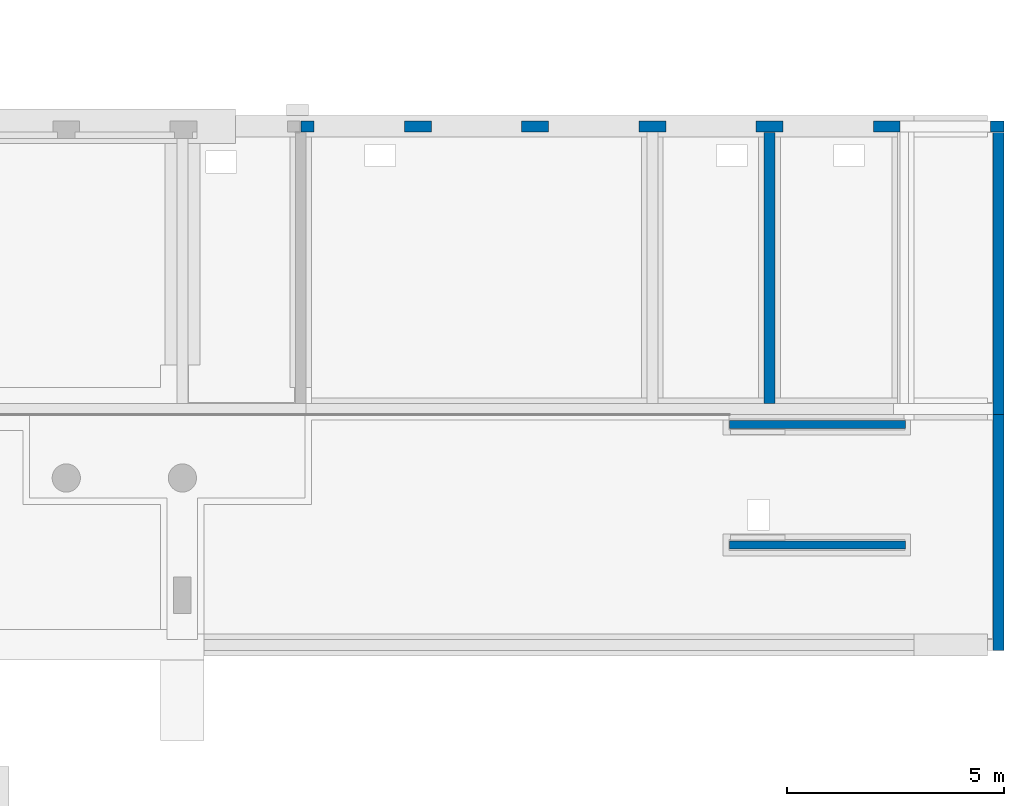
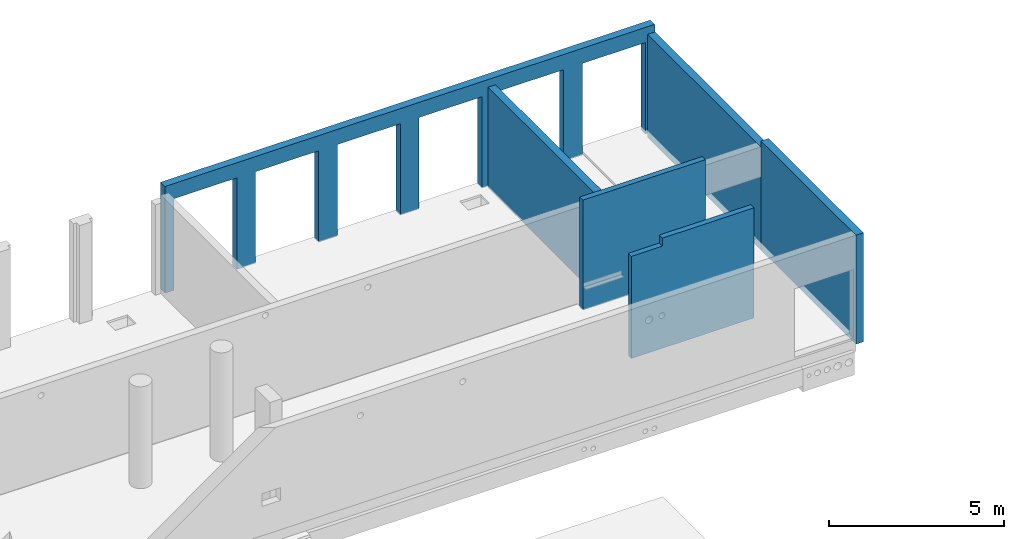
# One storey, part 49 of 60: 6 walls, 13 openings.
"""IFC2X3 building model written with IfcOpenShell, lengths in millimetres."""

from ifc_helpers import new_model, entity, si_unit, converted_unit, derived_unit, direction, frame, frame_2d, origin, place, context, subcontext, project, spatial, rectangle, extrude, material, layer, layer_set, layer_usage, type_object, element, save


model = new_model("IFC2X3")

# Units and contexts
model_context = context("Model", 3, precision=0.01, world=origin(), true_north=direction((6.12303176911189e-17, 1.0)))
body_context = subcontext(model_context, "Body", "Model", "MODEL_VIEW")
ifc_project = project(units=[si_unit("LENGTHUNIT", "METRE", prefix="MILLI"), si_unit("AREAUNIT", "SQUARE_METRE"), si_unit("VOLUMEUNIT", "CUBIC_METRE"), converted_unit("PLANEANGLEUNIT", "DEGREE", entity("IfcRatioMeasure", 0.0174532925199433), si_unit("PLANEANGLEUNIT", "RADIAN"), dimensions=[0, 0, 0, 0, 0, 0, 0]), si_unit("MASSUNIT", "GRAM", prefix="KILO"), derived_unit("MASSDENSITYUNIT", [(si_unit("MASSUNIT", "GRAM", prefix="KILO"), 1), (si_unit("LENGTHUNIT", "METRE"), -3)]), si_unit("TIMEUNIT", "SECOND"), si_unit("FREQUENCYUNIT", "HERTZ"), si_unit("THERMODYNAMICTEMPERATUREUNIT", "DEGREE_CELSIUS"), derived_unit("THERMALTRANSMITTANCEUNIT", [(si_unit("MASSUNIT", "GRAM", prefix="KILO"), 1), (si_unit("THERMODYNAMICTEMPERATUREUNIT", "KELVIN"), -1), (si_unit("TIMEUNIT", "SECOND"), -3)]), derived_unit("VOLUMETRICFLOWRATEUNIT", [(si_unit("LENGTHUNIT", "METRE"), 3), (si_unit("TIMEUNIT", "SECOND"), -1)]), si_unit("ELECTRICCURRENTUNIT", "AMPERE"), si_unit("ELECTRICVOLTAGEUNIT", "VOLT"), si_unit("POWERUNIT", "WATT"), si_unit("FORCEUNIT", "NEWTON", prefix="KILO"), si_unit("ILLUMINANCEUNIT", "LUX"), si_unit("LUMINOUSFLUXUNIT", "LUMEN"), si_unit("LUMINOUSINTENSITYUNIT", "CANDELA"), derived_unit("USERDEFINED", [(si_unit("MASSUNIT", "GRAM", prefix="KILO"), -1), (si_unit("LENGTHUNIT", "METRE"), -2), (si_unit("TIMEUNIT", "SECOND"), 3), (si_unit("LUMINOUSFLUXUNIT", "LUMEN"), 1)]), derived_unit("LINEARVELOCITYUNIT", [(si_unit("LENGTHUNIT", "METRE"), 1), (si_unit("TIMEUNIT", "SECOND"), -1)]), si_unit("PRESSUREUNIT", "PASCAL"), derived_unit("USERDEFINED", [(si_unit("LENGTHUNIT", "METRE"), -2), (si_unit("MASSUNIT", "GRAM", prefix="KILO"), 1), (si_unit("TIMEUNIT", "SECOND"), -2)])], contexts=[model_context])

# Site, building, storey
site_placement = place(None, origin())
site = spatial("IfcSite", under=ifc_project, at=site_placement, Name="Default", CompositionType="ELEMENT")
building_placement = place(site_placement, origin())
building = spatial("IfcBuilding", under=site, at=building_placement, Name="niet gebruiken", CompositionType="ELEMENT")
storey_placement = place(building_placement, origin())
storey = spatial("IfcBuildingStorey", under=building, at=storey_placement, Name="00 begane grond", CompositionType="ELEMENT", Elevation=0.0)

# Wall
ifc_material_1 = material(Name="NLRS_f2_beton ihwg")
ifc_layer_1 = layer(ifc_material_1, 250.0)
ifc_layer_set_1 = layer_set([ifc_layer_1], Name="Basic Wall:NLRS_22.21_WA_beton ihwg d=250_gen")
ifc_layer_usage_1 = layer_usage(ifc_layer_set_1, "AXIS2", "NEGATIVE", 125.0)
wall_type_1 = type_object("IfcWallType", Name="Basic Wall:NLRS_22.21_WA_beton ihwg d=250_gen", PredefinedType="STANDARD", material=ifc_layer_set_1)
wall_1_placement = place(storey_placement, frame((118800.0, 52986.0, -160.0), z_axis=(0.0, 0.0, 1.0), x_axis=(0.0, -1.0, 0.0)))
element("IfcWallStandardCase", 1, at=wall_1_placement, inside=storey, type_object=wall_type_1, material=ifc_layer_usage_1, Name="Basic Wall:NLRS_22.21_WA_beton ihwg d=250_gen", ObjectType="Basic Wall:NLRS_22.21_WA_beton ihwg d=250_gen", context=body_context, shape_type="SweptSolid", body=[
    extrude(rectangle(XDim=6239.99999999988, YDim=250.000000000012, at=frame_2d((3119.99999999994, -3.80850906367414e-12), x_axis=(-1.0, 0.0))), origin(), (0.0, 0.0, 1.0), 3509.99999999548),
])

# Wall, openings
ifc_material_2 = material(Name="NLRS_f2_beton prefab")
ifc_layer_2 = layer(ifc_material_2, 250.0)
ifc_layer_set_2 = layer_set([ifc_layer_2], Name="Basic Wall:NLRS_21.21_WA_beton prefab d=250_gen")
ifc_layer_usage_2 = layer_usage(ifc_layer_set_2, "AXIS2", "NEGATIVE", 125.0)
wall_type_2 = type_object("IfcWallType", Name="Basic Wall:NLRS_21.21_WA_beton prefab d=250_gen", PredefinedType="STANDARD", material=ifc_layer_set_2)
wall_2_placement = place(storey_placement, frame((108010.0, 53131.0, -130.0)))
wall_2 = element("IfcWallStandardCase", 2, at=wall_2_placement, inside=storey, type_object=wall_type_2, material=ifc_layer_usage_2, Name="Basic Wall:NLRS_21.21_WA_beton prefab d=250_gen", ObjectType="Basic Wall:NLRS_21.21_WA_beton prefab d=250_gen", context=body_context, shape_type="SweptSolid", body=[
    extrude(rectangle(XDim=16190.0, YDim=249.999999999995, at=frame_2d((8095.0, -3.73034936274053e-12), x_axis=(-1.0, 0.0))), origin(), (0.0, 0.0, 1.0), 3730.00000000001),
])
opening_1_placement = place(wall_2_placement, origin())
element("IfcOpeningElement", 3, at=opening_1_placement, cuts=wall_2, Name="Basic Wall:NLRS_21.21_WA_beton prefab d=250_gen", ObjectType="Opening", context=body_context, shape_type="SweptSolid", body=[
    extrude(rectangle(XDim=3230.0, YDim=2080.0, at=frame_2d((0.0, 8.64019966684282e-12), x_axis=(1.0, 0.0))), frame((14840.0, -1649.0, 1585.0), z_axis=(0.0, 1.0, 0.0), x_axis=(0.0, 0.0, 1.0)), (0.0, 0.0, 1.0), 3048.0),
])
opening_2_placement = place(wall_2_placement, origin())
element("IfcOpeningElement", 4, at=opening_2_placement, cuts=wall_2, Name="Basic Wall:NLRS_21.21_WA_beton prefab d=250_gen", ObjectType="Opening", context=body_context, shape_type="SweptSolid", body=[
    extrude(rectangle(XDim=3230.0, YDim=2080.0, at=frame_2d((0.0, 8.64019966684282e-12), x_axis=(1.0, 0.0))), frame((12140.0, -1649.0, 1585.0), z_axis=(0.0, 1.0, 0.0), x_axis=(0.0, 0.0, 1.0)), (0.0, 0.0, 1.0), 3048.0),
])
opening_3_placement = place(wall_2_placement, origin())
element("IfcOpeningElement", 5, at=opening_3_placement, cuts=wall_2, Name="Basic Wall:NLRS_21.21_WA_beton prefab d=250_gen", ObjectType="Opening", context=body_context, shape_type="SweptSolid", body=[
    extrude(rectangle(XDim=3230.0, YDim=2080.0, at=frame_2d((0.0, -8.64019966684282e-12), x_axis=(1.0, 0.0))), frame((9440.0, -1649.0, 1585.0), z_axis=(0.0, 1.0, 0.0), x_axis=(0.0, 0.0, 1.0)), (0.0, 0.0, 1.0), 3048.0),
])
opening_4_placement = place(wall_2_placement, origin())
element("IfcOpeningElement", 6, at=opening_4_placement, cuts=wall_2, Name="Basic Wall:NLRS_21.21_WA_beton prefab d=250_gen", ObjectType="Opening", context=body_context, shape_type="SweptSolid", body=[
    extrude(rectangle(XDim=3230.0, YDim=2080.0, at=frame_2d((0.0, 8.64019966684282e-12), x_axis=(1.0, 0.0))), frame((6740.0, -1649.0, 1585.0), z_axis=(0.0, 1.0, 0.0), x_axis=(0.0, 0.0, 1.0)), (0.0, 0.0, 1.0), 3048.0),
])
opening_5_placement = place(wall_2_placement, origin())
element("IfcOpeningElement", 7, at=opening_5_placement, cuts=wall_2, Name="Basic Wall:NLRS_21.21_WA_beton prefab d=250_gen", ObjectType="Opening", context=body_context, shape_type="SweptSolid", body=[
    extrude(rectangle(XDim=3230.0, YDim=2080.0, at=frame_2d((0.0, 8.64019966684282e-12), x_axis=(1.0, 0.0))), frame((4040.0, -1649.0, 1585.0), z_axis=(0.0, 1.0, 0.0), x_axis=(0.0, 0.0, 1.0)), (0.0, 0.0, 1.0), 3048.0),
])
opening_6_placement = place(wall_2_placement, origin())
element("IfcOpeningElement", 8, at=opening_6_placement, cuts=wall_2, Name="Basic Wall:NLRS_21.21_WA_beton prefab d=250_gen", ObjectType="Opening", context=body_context, shape_type="SweptSolid", body=[
    extrude(rectangle(XDim=3230.0, YDim=2080.0, at=frame_2d((0.0, 8.64019966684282e-12), x_axis=(1.0, 0.0))), frame((1340.0, -1649.0, 1585.0), z_axis=(0.0, 1.0, 0.0), x_axis=(0.0, 0.0, 1.0)), (0.0, 0.0, 1.0), 3048.0),
])
opening_7_placement = place(wall_2_placement, origin())
element("IfcOpeningElement", 9, at=opening_7_placement, cuts=wall_2, Name="Basic Wall:NLRS_21.21_WA_beton prefab d=250_gen", ObjectType="Opening", context=body_context, shape_type="SweptSolid", body=[
    extrude(rectangle(XDim=2440.0, YDim=2080.0, at=frame_2d((0.0, 8.64019966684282e-12), x_axis=(1.0, 0.0))), frame((12140.0, -1649.0, 4950.0), z_axis=(0.0, 1.0, 0.0), x_axis=(0.0, 0.0, 1.0)), (0.0, 0.0, 1.0), 3048.0),
])
opening_8_placement = place(wall_2_placement, origin())
element("IfcOpeningElement", 10, at=opening_8_placement, cuts=wall_2, Name="Basic Wall:NLRS_21.21_WA_beton prefab d=250_gen", ObjectType="Opening", context=body_context, shape_type="SweptSolid", body=[
    extrude(rectangle(XDim=2440.0, YDim=2080.0, at=frame_2d((0.0, 8.64019966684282e-12), x_axis=(1.0, 0.0))), frame((14840.0, -1649.0, 4950.0), z_axis=(0.0, 1.0, 0.0), x_axis=(0.0, 0.0, 1.0)), (0.0, 0.0, 1.0), 3048.0),
])
opening_9_placement = place(wall_2_placement, origin())
element("IfcOpeningElement", 11, at=opening_9_placement, cuts=wall_2, Name="Basic Wall:NLRS_21.21_WA_beton prefab d=250_gen", ObjectType="Opening", context=body_context, shape_type="SweptSolid", body=[
    extrude(rectangle(XDim=2440.0, YDim=2080.0, at=frame_2d((0.0, -8.64019966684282e-12), x_axis=(1.0, 0.0))), frame((9440.0, -1649.0, 4950.0), z_axis=(0.0, 1.0, 0.0), x_axis=(0.0, 0.0, 1.0)), (0.0, 0.0, 1.0), 3048.0),
])
opening_10_placement = place(wall_2_placement, origin())
element("IfcOpeningElement", 12, at=opening_10_placement, cuts=wall_2, Name="Basic Wall:NLRS_21.21_WA_beton prefab d=250_gen", ObjectType="Opening", context=body_context, shape_type="SweptSolid", body=[
    extrude(rectangle(XDim=2440.0, YDim=2080.0, at=frame_2d((0.0, 8.64019966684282e-12), x_axis=(1.0, 0.0))), frame((6740.0, -1649.0, 4950.0), z_axis=(0.0, 1.0, 0.0), x_axis=(0.0, 0.0, 1.0)), (0.0, 0.0, 1.0), 3048.0),
])
opening_11_placement = place(wall_2_placement, origin())
element("IfcOpeningElement", 13, at=opening_11_placement, cuts=wall_2, Name="Basic Wall:NLRS_21.21_WA_beton prefab d=250_gen", ObjectType="Opening", context=body_context, shape_type="SweptSolid", body=[
    extrude(rectangle(XDim=2440.0, YDim=2080.0, at=frame_2d((0.0, 8.64019966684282e-12), x_axis=(1.0, 0.0))), frame((4040.0, -1649.0, 4950.0), z_axis=(0.0, 1.0, 0.0), x_axis=(0.0, 0.0, 1.0)), (0.0, 0.0, 1.0), 3048.0),
])
opening_12_placement = place(wall_2_placement, origin())
element("IfcOpeningElement", 14, at=opening_12_placement, cuts=wall_2, Name="Basic Wall:NLRS_21.21_WA_beton prefab d=250_gen", ObjectType="Opening", context=body_context, shape_type="SweptSolid", body=[
    extrude(rectangle(XDim=2440.0, YDim=2080.0, at=frame_2d((0.0, 8.64019966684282e-12), x_axis=(1.0, 0.0))), frame((1340.0, -1649.0, 4950.0), z_axis=(0.0, 1.0, 0.0), x_axis=(0.0, 0.0, 1.0)), (0.0, 0.0, 1.0), 3048.0),
])

# Walls
ifc_layer_3 = layer(ifc_material_1, 250.0)
ifc_layer_set_3 = layer_set([ifc_layer_3], Name="Basic Wall:NLRS_16.21_WA_beton ihwg d=250_gen")
ifc_layer_usage_3 = layer_usage(ifc_layer_set_3, "AXIS2", "NEGATIVE", 125.0)
wall_type_3 = type_object("IfcWallType", Name="Basic Wall:NLRS_16.21_WA_beton ihwg d=250_gen", PredefinedType="STANDARD", material=ifc_layer_set_3)
wall_3_placement = place(storey_placement, frame((124075.0, 46496.0, -250.0), z_axis=(0.0, 0.0, 1.0), x_axis=(0.0, -1.0, 0.0)))
element("IfcWallStandardCase", 15, at=wall_3_placement, inside=storey, type_object=wall_type_3, material=ifc_layer_usage_3, Name="Basic Wall:NLRS_16.21_WA_beton ihwg d=250_gen", ObjectType="Basic Wall:NLRS_16.21_WA_beton ihwg d=250_gen", context=body_context, shape_type="SweptSolid", body=[
    extrude(rectangle(XDim=5435.00000000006, YDim=250.000000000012, at=frame_2d((2717.50000000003, 0.0), x_axis=(-1.0, 0.0))), origin(), (0.0, 0.0, 1.0), 3810.00000000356),
])
ifc_layer_usage_4 = layer_usage(ifc_layer_set_3, "AXIS2", "NEGATIVE", 125.0)
wall_4_placement = place(storey_placement, frame((124075.0, 52986.0, -250.0), z_axis=(0.0, 0.0, 1.0), x_axis=(0.0, -1.0, 0.0)))
element("IfcWallStandardCase", 16, at=wall_4_placement, inside=storey, type_object=wall_type_3, material=ifc_layer_usage_4, Name="Basic Wall:NLRS_16.21_WA_beton ihwg d=250_gen", ObjectType="Basic Wall:NLRS_16.21_WA_beton ihwg d=250_gen", context=body_context, shape_type="SweptSolid", body=[
    extrude(rectangle(XDim=6489.99999999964, YDim=250.000000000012, at=frame_2d((3244.99999999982, 3.19744231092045e-13), x_axis=(-1.0, 0.0))), origin(), (0.0, 0.0, 1.0), 3600.00000000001),
])

# Wall, opening
ifc_layer_4 = layer(ifc_material_2, 180.0)
ifc_layer_set_4 = layer_set([ifc_layer_4], Name="Basic Wall:NLRS_22.21_WA_beton prefab d=180_gen")
ifc_layer_usage_5 = layer_usage(ifc_layer_set_4, "AXIS2", "NEGATIVE", 90.0)
wall_type_4 = type_object("IfcWallType", Name="Basic Wall:NLRS_22.21_WA_beton prefab d=180_gen", PredefinedType="STANDARD", material=ifc_layer_set_4)
wall_5_placement = place(storey_placement, frame((117880.0, 43486.0, -40.0)))
wall_5 = element("IfcWallStandardCase", 17, at=wall_5_placement, inside=storey, type_object=wall_type_4, material=ifc_layer_usage_5, Name="Basic Wall:NLRS_22.21_WA_beton prefab d=180_gen", ObjectType="Basic Wall:NLRS_22.21_WA_beton prefab d=180_gen", context=body_context, shape_type="SweptSolid", body=[
    extrude(rectangle(XDim=4050.0, YDim=179.999999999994, at=frame_2d((2025.0, 7.105427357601e-14), x_axis=(-1.0, 0.0))), origin(), (0.0, 0.0, 1.0), 3850.0),
])
opening_13_placement = place(wall_5_placement, origin())
element("IfcOpeningElement", 18, at=opening_13_placement, cuts=wall_5, Name="Basic Wall:NLRS_22.21_WA_beton prefab d=180_gen", ObjectType="Opening", context=body_context, shape_type="SweptSolid", body=[
    extrude(rectangle(XDim=280.0, YDim=1025.00287522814, at=frame_2d((0.0, -5.40012479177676e-13), x_axis=(0.0, 1.0))), frame((512.501437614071, 90.0, 3710.0), z_axis=(0.0, -1.0, 0.0), x_axis=(-1.0, 0.0, 0.0)), (0.0, 0.0, 1.0), 180.0),
])

# Wall
ifc_layer_usage_6 = layer_usage(ifc_layer_set_4, "AXIS2", "NEGATIVE", 90.0)
wall_6_placement = place(storey_placement, frame((117880.0, 46266.0, -40.0)))
element("IfcWallStandardCase", 19, at=wall_6_placement, inside=storey, type_object=wall_type_4, material=ifc_layer_usage_6, Name="Basic Wall:NLRS_22.21_WA_beton prefab d=180_gen", ObjectType="Basic Wall:NLRS_22.21_WA_beton prefab d=180_gen", context=body_context, shape_type="SweptSolid", body=[
    extrude(rectangle(XDim=4049.99929368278, YDim=179.999999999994, at=frame_2d((2024.99964684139, 7.105427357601e-14), x_axis=(-1.0, 0.0))), origin(), (0.0, 0.0, 1.0), 3850.0),
])

save(model, "model.ifc")
